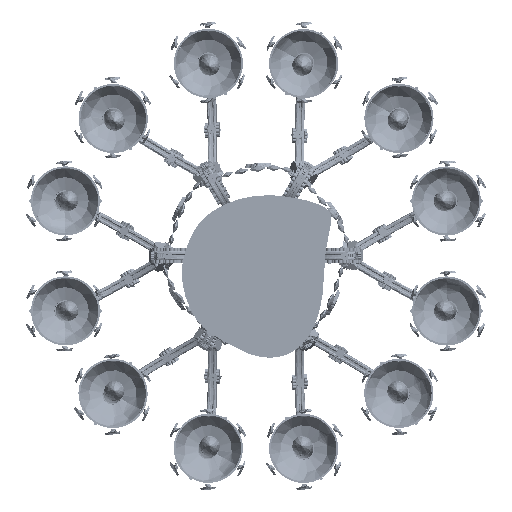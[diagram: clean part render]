
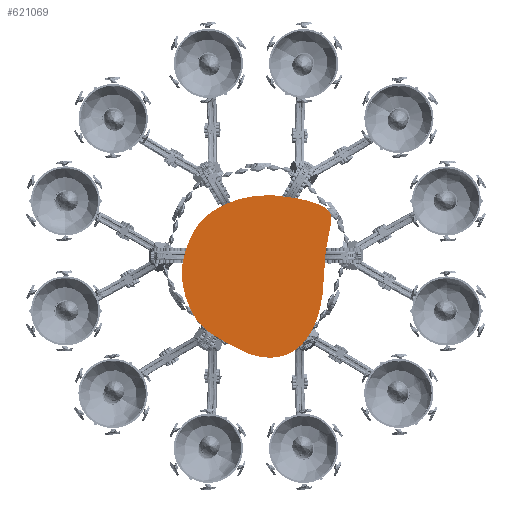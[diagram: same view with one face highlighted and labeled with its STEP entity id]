
A CAD part, top view. The second image highlights one B-rep face of the part: STEP entity #621069.
In plain terms, the highlighted planar face has unit normal (0, 0, 1).
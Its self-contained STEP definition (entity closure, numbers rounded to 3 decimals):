
#16114=B_SPLINE_CURVE_WITH_KNOTS('',4,(#910447,#910448,#910449,#910450,
#910451,#910452,#910453,#910454,#910455,#910456,#910457,#910458,#910459),
 .UNSPECIFIED.,.T.,.F.,(5,1,1,1,1,1,1,1,1,5),(1.,2.,3.,4.,5.,6.,7.,8.,9.,
10.),.UNSPECIFIED.);
#134846=PLANE('',#657195);
#163089=FACE_OUTER_BOUND('',#196396,.T.);
#196396=EDGE_LOOP('',(#427846));
#253032=VERTEX_POINT('',#910445);
#319435=EDGE_CURVE('',#253032,#253032,#16114,.T.);
#427846=ORIENTED_EDGE('',*,*,#319435,.T.);
#621069=ADVANCED_FACE('',(#163089),#134846,.T.);
#657195=AXIS2_PLACEMENT_3D('',#910460,#721401,#721402);
#721401=DIRECTION('center_axis',(0.,0.,
1.));
#721402=DIRECTION('ref_axis',(0.,1.,0.));
#910445=CARTESIAN_POINT('',(-13.626,-168.271,1043.332));
#910447=CARTESIAN_POINT('Ctrl Pts',(-13.626,-168.271,
1043.332));
#910448=CARTESIAN_POINT('Ctrl Pts',(68.838,-196.612,1043.332));
#910449=CARTESIAN_POINT('Ctrl Pts',(132.068,-81.13,
1043.332));
#910450=CARTESIAN_POINT('Ctrl Pts',(98.891,10.239,1043.332));
#910451=CARTESIAN_POINT('Ctrl Pts',(153.979,78.044,1043.332));
#910452=CARTESIAN_POINT('Ctrl Pts',(77.3,96.3,1043.332));
#910453=CARTESIAN_POINT('Ctrl Pts',(-1.477,111.37,
1043.332));
#910454=CARTESIAN_POINT('Ctrl Pts',(-101.906,71.807,1043.332));
#910455=CARTESIAN_POINT('Ctrl Pts',(-120.775,3.028,
1043.332));
#910456=CARTESIAN_POINT('Ctrl Pts',(-135.374,-36.555,
1043.332));
#910457=CARTESIAN_POINT('Ctrl Pts',(-107.257,-125.706,
1043.332));
#910458=CARTESIAN_POINT('Ctrl Pts',(-61.52,-143.634,
1043.332));
#910459=CARTESIAN_POINT('Ctrl Pts',(-13.626,-168.271,
1043.332));
#910460=CARTESIAN_POINT('Origin',(6.797,-29.219,1043.332));
